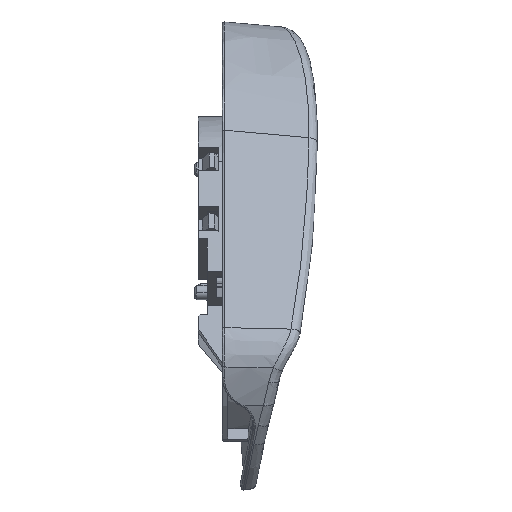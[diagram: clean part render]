
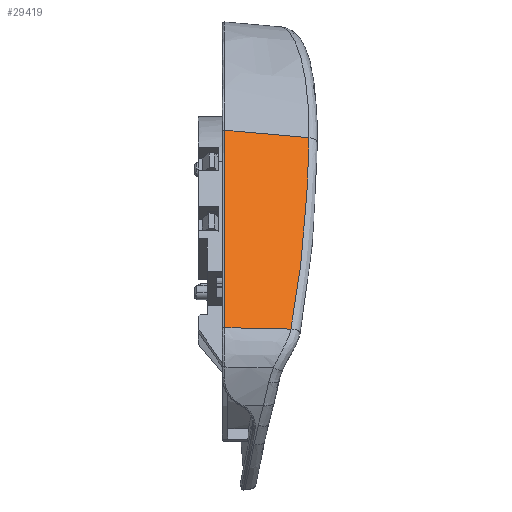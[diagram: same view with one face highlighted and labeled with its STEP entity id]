
A CAD part, left-side view. The second image highlights one B-rep face of the part: STEP entity #29419.
In plain terms, the highlighted planar face has unit normal (-0.824, -0.087, 0.56).
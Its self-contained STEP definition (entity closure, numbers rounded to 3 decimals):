
#29342=AXIS2_PLACEMENT_3D('Plane Axis2P3D',#29339,#29340,#29341) ;
#21917=CARTESIAN_POINT('Vertex',(-100.917,-971.366,608.751)) ;
#21921=CARTESIAN_POINT('Control Point',(-100.895,-971.822,608.711)) ;
#21922=CARTESIAN_POINT('Control Point',(-100.9,-971.731,608.719)) ;
#21923=CARTESIAN_POINT('Control Point',(-100.904,-971.639,608.727)) ;
#21924=CARTESIAN_POINT('Control Point',(-100.908,-971.548,608.735)) ;
#21925=CARTESIAN_POINT('Control Point',(-100.912,-971.457,608.743)) ;
#21926=CARTESIAN_POINT('Control Point',(-100.917,-971.366,608.751)) ;
#21927=CARTESIAN_POINT('Vertex',(-100.895,-971.822,608.711)) ;
#21931=CARTESIAN_POINT('Control Point',(-99.836,-994.69,606.71)) ;
#21932=CARTESIAN_POINT('Control Point',(-100.048,-990.116,607.111)) ;
#21933=CARTESIAN_POINT('Control Point',(-100.26,-985.543,607.511)) ;
#21934=CARTESIAN_POINT('Control Point',(-100.472,-980.969,607.911)) ;
#21935=CARTESIAN_POINT('Control Point',(-100.684,-976.396,608.311)) ;
#21936=CARTESIAN_POINT('Control Point',(-100.895,-971.822,608.711)) ;
#21937=CARTESIAN_POINT('Vertex',(-99.836,-994.69,606.71)) ;
#25553=CARTESIAN_POINT('Vertex',(-137.933,-971.366,554.29)) ;
#25556=CARTESIAN_POINT('Line Origine',(-113.93,-971.366,589.605)) ;
#29339=CARTESIAN_POINT('Axis2P3D Location',(-83.036,-924.773,642.311)) ;
#29345=CARTESIAN_POINT('Control Point',(-137.933,-971.366,554.29)) ;
#29346=CARTESIAN_POINT('Control Point',(-137.925,-971.457,554.288)) ;
#29347=CARTESIAN_POINT('Control Point',(-137.916,-971.548,554.286)) ;
#29348=CARTESIAN_POINT('Control Point',(-137.908,-971.639,554.284)) ;
#29349=CARTESIAN_POINT('Control Point',(-137.9,-971.731,554.282)) ;
#29350=CARTESIAN_POINT('Control Point',(-137.892,-971.822,554.28)) ;
#29351=CARTESIAN_POINT('Vertex',(-137.892,-971.822,554.28)) ;
#29355=CARTESIAN_POINT('Control Point',(-137.892,-971.822,554.28)) ;
#29356=CARTESIAN_POINT('Control Point',(-137.861,-972.155,554.272)) ;
#29357=CARTESIAN_POINT('Control Point',(-137.832,-972.48,554.265)) ;
#29358=CARTESIAN_POINT('Control Point',(-137.803,-972.795,554.258)) ;
#29359=CARTESIAN_POINT('Control Point',(-137.664,-974.326,554.225)) ;
#29360=CARTESIAN_POINT('Control Point',(-137.525,-975.856,554.192)) ;
#29361=CARTESIAN_POINT('Control Point',(-137.139,-980.089,554.1)) ;
#29362=CARTESIAN_POINT('Control Point',(-136.897,-982.752,554.042)) ;
#29363=CARTESIAN_POINT('Control Point',(-136.655,-985.414,553.984)) ;
#29364=CARTESIAN_POINT('Control Point',(-136.523,-986.857,553.953)) ;
#29365=CARTESIAN_POINT('Control Point',(-136.392,-988.3,553.921)) ;
#29366=CARTESIAN_POINT('Control Point',(-136.261,-989.743,553.89)) ;
#29367=CARTESIAN_POINT('Vertex',(-136.261,-989.743,553.89)) ;
#29371=CARTESIAN_POINT('Control Point',(-136.26,-989.744,553.89)) ;
#29372=CARTESIAN_POINT('Control Point',(-133.844,-990.398,557.344)) ;
#29373=CARTESIAN_POINT('Control Point',(-131.431,-990.988,560.802)) ;
#29374=CARTESIAN_POINT('Control Point',(-129.003,-991.52,564.292)) ;
#29375=CARTESIAN_POINT('Control Point',(-126.545,-991.999,567.833)) ;
#29376=CARTESIAN_POINT('Control Point',(-124.045,-992.43,571.444)) ;
#29377=CARTESIAN_POINT('Vertex',(-124.045,-992.43,571.444)) ;
#29381=CARTESIAN_POINT('Control Point',(-124.045,-992.43,571.444)) ;
#29382=CARTESIAN_POINT('Control Point',(-121.33,-992.898,575.366)) ;
#29383=CARTESIAN_POINT('Control Point',(-118.608,-993.303,579.308)) ;
#29384=CARTESIAN_POINT('Control Point',(-115.875,-993.644,583.276)) ;
#29385=CARTESIAN_POINT('Control Point',(-113.13,-993.925,587.271)) ;
#29386=CARTESIAN_POINT('Control Point',(-110.369,-994.147,591.299)) ;
#29387=CARTESIAN_POINT('Vertex',(-110.369,-994.146,591.299)) ;
#29391=CARTESIAN_POINT('Control Point',(-110.369,-994.147,591.299)) ;
#29392=CARTESIAN_POINT('Control Point',(-109.315,-994.231,592.835)) ;
#29393=CARTESIAN_POINT('Control Point',(-108.272,-994.307,594.359)) ;
#29394=CARTESIAN_POINT('Control Point',(-107.228,-994.374,595.884)) ;
#29395=CARTESIAN_POINT('Control Point',(-106.173,-994.434,597.427)) ;
#29396=CARTESIAN_POINT('Control Point',(-105.099,-994.488,598.999)) ;
#29397=CARTESIAN_POINT('Vertex',(-105.099,-994.485,599.)) ;
#29401=CARTESIAN_POINT('Control Point',(-105.099,-994.488,598.999)) ;
#29402=CARTESIAN_POINT('Control Point',(-104.045,-994.54,600.541)) ;
#29403=CARTESIAN_POINT('Control Point',(-102.993,-994.585,602.083)) ;
#29404=CARTESIAN_POINT('Control Point',(-101.94,-994.625,603.625)) ;
#29405=CARTESIAN_POINT('Control Point',(-100.888,-994.659,605.168)) ;
#29406=CARTESIAN_POINT('Control Point',(-99.836,-994.69,606.71)) ;
#25557=DIRECTION('Vector Direction',(-0.562,0.,-0.827)) ;
#29340=DIRECTION('Axis2P3D Direction',(0.824,0.087,-0.56)) ;
#29341=DIRECTION('Axis2P3D XDirection',(0.072,-0.996,-0.049)) ;
#25558=VECTOR('Line Direction',#25557,1.) ;
#29409=ORIENTED_EDGE('',*,*,#21939,.F.) ;
#29410=ORIENTED_EDGE('',*,*,#21929,.T.) ;
#29411=ORIENTED_EDGE('',*,*,#25560,.T.) ;
#29412=ORIENTED_EDGE('',*,*,#29353,.T.) ;
#29413=ORIENTED_EDGE('',*,*,#29369,.T.) ;
#29414=ORIENTED_EDGE('',*,*,#29379,.T.) ;
#29415=ORIENTED_EDGE('',*,*,#29389,.T.) ;
#29416=ORIENTED_EDGE('',*,*,#29399,.T.) ;
#29417=ORIENTED_EDGE('',*,*,#29407,.T.) ;
#29419=ADVANCED_FACE('\X2\65B0672C4F53\X0\',(#29418),#29343,.F.) ;
#29344=B_SPLINE_CURVE_WITH_KNOTS('',5,(#29345,#29346,#29347,#29348,#29349,#29350),.UNSPECIFIED.,.F.,.U.,(6,6),(2.696,3.301),.UNSPECIFIED.) ;
#29354=B_SPLINE_CURVE_WITH_KNOTS('',5,(#29355,#29356,#29357,#29358,#29359,#29360,#29361,#29362,#29363,#29364,#29365,#29366),.UNSPECIFIED.,.F.,.U.,(6,3,3,6),(0.643,3.353,13.956,26.509),.UNSPECIFIED.) ;
#29370=B_SPLINE_CURVE_WITH_KNOTS('',5,(#29371,#29372,#29373,#29374,#29375,#29376),.UNSPECIFIED.,.F.,.U.,(6,6),(0.,31.345),.UNSPECIFIED.) ;
#29380=B_SPLINE_CURVE_WITH_KNOTS('',5,(#29381,#29382,#29383,#29384,#29385,#29386),.UNSPECIFIED.,.F.,.U.,(6,6),(0.,34.045),.UNSPECIFIED.) ;
#29390=B_SPLINE_CURVE_WITH_KNOTS('',5,(#29391,#29392,#29393,#29394,#29395,#29396),.UNSPECIFIED.,.F.,.U.,(6,6),(0.,12.988),.UNSPECIFIED.) ;
#29400=B_SPLINE_CURVE_WITH_KNOTS('',5,(#29401,#29402,#29403,#29404,#29405,#29406),.UNSPECIFIED.,.F.,.U.,(6,6),(0.,12.729),.UNSPECIFIED.) ;
#21929=EDGE_CURVE('',#21928,#21918,#21920,.T.) ;
#21939=EDGE_CURVE('',#21928,#21938,#21930,.F.) ;
#25560=EDGE_CURVE('',#21918,#25554,#25559,.T.) ;
#29353=EDGE_CURVE('',#25554,#29352,#29344,.T.) ;
#29369=EDGE_CURVE('',#29352,#29368,#29354,.T.) ;
#29379=EDGE_CURVE('',#29368,#29378,#29370,.T.) ;
#29389=EDGE_CURVE('',#29378,#29388,#29380,.T.) ;
#29399=EDGE_CURVE('',#29388,#29398,#29390,.T.) ;
#29407=EDGE_CURVE('',#29398,#21938,#29400,.T.) ;
#29408=EDGE_LOOP('',(#29409,#29410,#29411,#29412,#29413,#29414,#29415,#29416,#29417)) ;
#29418=FACE_OUTER_BOUND('',#29408,.T.) ;
#25559=LINE('Line',#25556,#25558) ;
#29343=PLANE('',#29342) ;
#21918=VERTEX_POINT('',#21917) ;
#21928=VERTEX_POINT('',#21927) ;
#21938=VERTEX_POINT('',#21937) ;
#25554=VERTEX_POINT('',#25553) ;
#29352=VERTEX_POINT('',#29351) ;
#29368=VERTEX_POINT('',#29367) ;
#29378=VERTEX_POINT('',#29377) ;
#29388=VERTEX_POINT('',#29387) ;
#29398=VERTEX_POINT('',#29397) ;
#21920=(BOUNDED_CURVE()B_SPLINE_CURVE(5,(#21921,#21922,#21923,#21924,#21925,#21926),.UNSPECIFIED.,.F.,.U.)B_SPLINE_CURVE_WITH_KNOTS((6,6),(20.293,20.698),.UNSPECIFIED.)CURVE()GEOMETRIC_REPRESENTATION_ITEM()RATIONAL_B_SPLINE_CURVE((1.,1.,1.,1.,1.,1.))REPRESENTATION_ITEM('')) ;
#21930=(BOUNDED_CURVE()B_SPLINE_CURVE(5,(#21931,#21932,#21933,#21934,#21935,#21936),.UNSPECIFIED.,.F.,.U.)B_SPLINE_CURVE_WITH_KNOTS((6,6),(0.,20.293),.UNSPECIFIED.)CURVE()GEOMETRIC_REPRESENTATION_ITEM()RATIONAL_B_SPLINE_CURVE((1.,1.,1.,1.,1.,1.))REPRESENTATION_ITEM('')) ;
